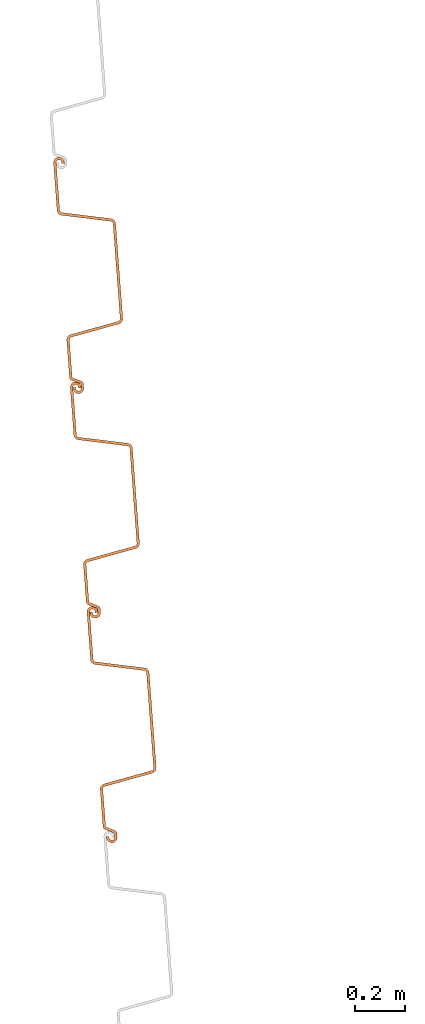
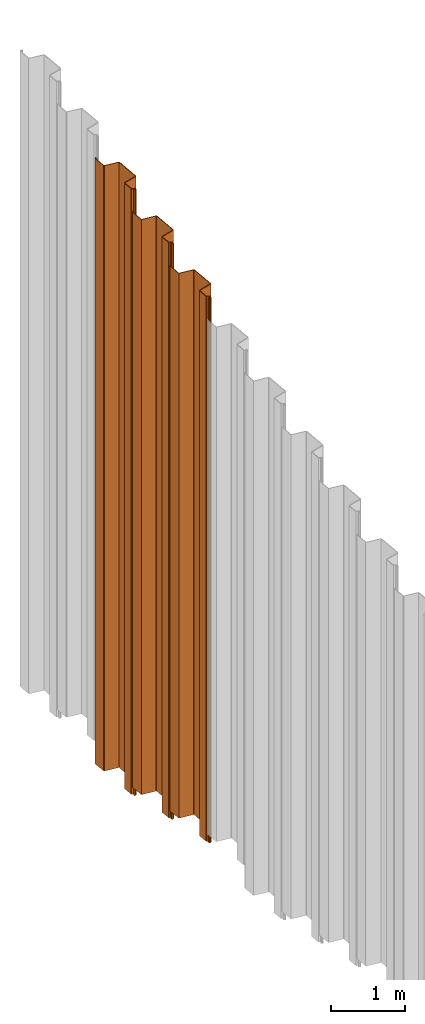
# One storey, part 5 of 12: 3 proxies.
"""IFC2X3 building model written with IfcOpenShell, lengths in millimetres."""

from ifc_helpers import new_model, entity, si_unit, converted_unit, derived_unit, direction, frame, frame_2d, origin, place, context, subcontext, project, spatial, polyline, circle_curve, parameter, trimmed, segment, composite_curve, outline, extrude, source, transform, mapped, material, type_object, type_shapes, element, save


model = new_model("IFC2X3")

# Units and contexts
model_context = context("Model", 3, precision=0.01, world=origin(), true_north=direction((6.12303176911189e-17, 1.0)))
body_context = subcontext(model_context, "Body", "Model", "MODEL_VIEW")
ifc_project = project(units=[si_unit("LENGTHUNIT", "METRE", prefix="MILLI"), si_unit("AREAUNIT", "SQUARE_METRE"), si_unit("VOLUMEUNIT", "CUBIC_METRE"), converted_unit("PLANEANGLEUNIT", "DEGREE", entity("IfcRatioMeasure", 0.0174532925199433), si_unit("PLANEANGLEUNIT", "RADIAN"), dimensions=[0, 0, 0, 0, 0, 0, 0]), si_unit("MASSUNIT", "GRAM", prefix="KILO"), derived_unit("MASSDENSITYUNIT", [(si_unit("MASSUNIT", "GRAM", prefix="KILO"), 1), (si_unit("LENGTHUNIT", "METRE"), -3)]), derived_unit("MOMENTOFINERTIAUNIT", [(si_unit("LENGTHUNIT", "METRE"), 4)]), si_unit("TIMEUNIT", "SECOND"), si_unit("FREQUENCYUNIT", "HERTZ"), si_unit("THERMODYNAMICTEMPERATUREUNIT", "DEGREE_CELSIUS"), derived_unit("THERMALTRANSMITTANCEUNIT", [(si_unit("MASSUNIT", "GRAM", prefix="KILO"), 1), (si_unit("THERMODYNAMICTEMPERATUREUNIT", "KELVIN"), -1), (si_unit("TIMEUNIT", "SECOND"), -3)]), derived_unit("VOLUMETRICFLOWRATEUNIT", [(si_unit("LENGTHUNIT", "METRE"), 3), (si_unit("TIMEUNIT", "SECOND"), -1)]), si_unit("ELECTRICCURRENTUNIT", "AMPERE"), si_unit("ELECTRICVOLTAGEUNIT", "VOLT"), si_unit("POWERUNIT", "WATT"), si_unit("FORCEUNIT", "NEWTON", prefix="KILO"), si_unit("ILLUMINANCEUNIT", "LUX"), si_unit("LUMINOUSFLUXUNIT", "LUMEN"), si_unit("LUMINOUSINTENSITYUNIT", "CANDELA"), derived_unit("USERDEFINED", [(si_unit("MASSUNIT", "GRAM", prefix="KILO"), -1), (si_unit("LENGTHUNIT", "METRE"), -2), (si_unit("TIMEUNIT", "SECOND"), 3), (si_unit("LUMINOUSFLUXUNIT", "LUMEN"), 1)]), derived_unit("LINEARVELOCITYUNIT", [(si_unit("LENGTHUNIT", "METRE"), 1), (si_unit("TIMEUNIT", "SECOND"), -1)]), si_unit("PRESSUREUNIT", "PASCAL"), derived_unit("USERDEFINED", [(si_unit("LENGTHUNIT", "METRE"), -2), (si_unit("MASSUNIT", "GRAM", prefix="KILO"), 1), (si_unit("TIMEUNIT", "SECOND"), -2)]), derived_unit("LINEARFORCEUNIT", [(si_unit("MASSUNIT", "GRAM", prefix="KILO"), 1), (si_unit("LENGTHUNIT", "METRE"), 1), (si_unit("TIMEUNIT", "SECOND"), -2), (si_unit("LENGTHUNIT", "METRE"), -1)]), derived_unit("PLANARFORCEUNIT", [(si_unit("MASSUNIT", "GRAM", prefix="KILO"), 1), (si_unit("LENGTHUNIT", "METRE"), 1), (si_unit("TIMEUNIT", "SECOND"), -2), (si_unit("LENGTHUNIT", "METRE"), -2)])], contexts=[model_context])

# Site, building, storey
site_placement = place(None, origin())
site = spatial("IfcSite", under=ifc_project, at=site_placement, Name="Default", CompositionType="ELEMENT")
building_placement = place(site_placement, origin())
building = spatial("IfcBuilding", under=site, at=building_placement, CompositionType="ELEMENT")
storey_placement = place(building_placement, frame((0.0, 0.0, 10600.0)))
storey = spatial("IfcBuildingStorey", under=building, at=storey_placement, Name="AP+10.600", CompositionType="ELEMENT", Elevation=10600.0)

# Proxies
ifc_material = material(Name="<Unnamed>")
building_element_proxy_type_1 = type_object("IfcBuildingElementProxyType", Name="鋼矢板10H型:鋼矢板10H型", PredefinedType="NOTDEFINED", material=ifc_material)
shared_shape_1 = source(origin(), body_context, "Body", "SweptSolid", [
    extrude(outline(composite_curve([segment(trimmed(circle_curve(frame_2d((85.3662976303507, 306.644432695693), x_axis=(0.422618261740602, 0.906307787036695)), 13.885714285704), [parameter(24.9999999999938)], [parameter(90.0000000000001)], True, "PARAMETER"), True, "CONTINUOUS"), segment(polyline([(72.7815666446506, 312.512789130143), (9.8129512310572, 177.476157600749)]), True, "CONTINUOUS"), segment(trimmed(circle_curve(frame_2d((29.3891994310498, 168.347603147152), x_axis=(0.422618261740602, 0.906307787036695)), 21.6), [parameter(90.0000000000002)], [parameter(168.69006752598)], True, "PARAMETER"), True, "CONTINUOUS"), segment(polyline([(16.598697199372, 150.941769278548), (175.329723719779, 34.2998683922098)]), True, "CONTINUOUS"), segment(trimmed(circle_curve(frame_2d((168.93447260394, 25.596951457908), x_axis=(0.422618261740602, 0.906307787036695)), 10.7999999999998), [parameter(270.0)], [parameter(348.690067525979)], True, "PARAMETER"), False, "CONTINUOUS"), segment(polyline([(178.722596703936, 21.0326742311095), (18.2974003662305, -323.000269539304)]), True, "CONTINUOUS"), segment(trimmed(circle_curve(frame_2d((8.50927626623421, -318.435992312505), x_axis=(0.422618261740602, 0.906307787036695)), 10.8), [parameter(191.30993247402)], [parameter(269.999999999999)], True, "PARAMETER"), False, "CONTINUOUS"), segment(polyline([(5.95324328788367, -328.929166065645), (-185.429973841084, -282.310113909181)]), True, "CONTINUOUS"), segment(trimmed(circle_curve(frame_2d((-190.542039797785, -303.296461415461), x_axis=(0.422618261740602, 0.906307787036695)), 21.6000000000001), [parameter(11.3099324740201)], [parameter(90.0000000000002)], True, "PARAMETER"), True, "CONTINUOUS"), segment(polyline([(-210.118287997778, -294.167906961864), (-290.330886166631, -466.184378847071)]), True, "CONTINUOUS"), segment(trimmed(circle_curve(frame_2d((-270.754637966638, -475.312933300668), x_axis=(0.422618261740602, 0.906307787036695)), 21.6), [parameter(90.0000000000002)], [parameter(269.999999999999)], True, "PARAMETER"), True, "CONTINUOUS"), segment(polyline([(-251.178389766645, -484.441487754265), (-249.065298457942, -479.909948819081)]), True, "CONTINUOUS"), segment(polyline([(-249.065298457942, -479.909948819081), (-258.853422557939, -475.345671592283)]), True, "CONTINUOUS"), segment(polyline([(-258.853422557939, -475.345671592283), (-260.966513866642, -479.877210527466)]), True, "CONTINUOUS"), segment(trimmed(circle_curve(frame_2d((-270.754637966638, -475.312933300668), x_axis=(0.422618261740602, 0.906307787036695)), 10.8), [parameter(90.0000000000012)], [parameter(270.0)], True, "PARAMETER"), False, "CONTINUOUS"), segment(polyline([(-280.542762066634, -470.748656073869), (-200.330163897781, -298.732184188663)]), True, "CONTINUOUS"), segment(trimmed(circle_curve(frame_2d((-190.542039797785, -303.296461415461), x_axis=(0.422618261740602, 0.906307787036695)), 10.8), [parameter(11.3099324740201)], [parameter(89.9999999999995)], True, "PARAMETER"), False, "CONTINUOUS"), segment(polyline([(-187.986006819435, -292.803287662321), (3.39721030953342, -339.422339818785)]), True, "CONTINUOUS"), segment(trimmed(circle_curve(frame_2d((8.50927626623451, -318.435992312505), x_axis=(0.422618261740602, 0.906307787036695)), 21.6), [parameter(191.30993247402)], [parameter(270.0)], True, "PARAMETER"), True, "CONTINUOUS"), segment(polyline([(28.0855244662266, -327.564546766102), (188.510720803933, 16.4683970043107)]), True, "CONTINUOUS"), segment(trimmed(circle_curve(frame_2d((168.93447260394, 25.5969514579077), x_axis=(0.422618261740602, 0.906307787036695)), 21.6), [parameter(270.0)], [parameter(348.69006752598)], True, "PARAMETER"), True, "CONTINUOUS"), segment(polyline([(181.724974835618, 43.0027853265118), (22.9939483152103, 159.644686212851)]), True, "CONTINUOUS"), segment(trimmed(circle_curve(frame_2d((29.3891994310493, 168.347603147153), x_axis=(0.422618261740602, 0.906307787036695)), 10.7999999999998), [parameter(89.9999999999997)], [parameter(168.690067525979)], True, "PARAMETER"), False, "CONTINUOUS"), segment(polyline([(19.6010753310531, 172.911880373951), (82.5696907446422, 307.948511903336)]), True, "CONTINUOUS"), segment(trimmed(circle_curve(frame_2d((85.3662976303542, 306.64443269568), x_axis=(0.422618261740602, 0.906307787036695)), 3.08571428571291), [parameter(25.0000000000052)], [parameter(90.0000000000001)], True, "PARAMETER"), False, "CONTINUOUS"), segment(polyline([(85.3662976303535, 309.730146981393), (122.220231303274, 309.730146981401)]), True, "CONTINUOUS"), segment(trimmed(circle_curve(frame_2d((122.220231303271, 323.615861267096), x_axis=(0.422618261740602, 0.906307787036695)), 13.8857142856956), [parameter(205.000000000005)], [parameter(270.0)], True, "PARAMETER"), True, "CONTINUOUS"), segment(polyline([(134.804962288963, 317.747504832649), (141.079261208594, 331.202782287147)]), True, "CONTINUOUS"), segment(trimmed(circle_curve(frame_2d((121.503013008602, 340.331336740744), x_axis=(0.422618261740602, 0.906307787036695)), 21.6), [parameter(270.0)], [parameter(90.0000000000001)], True, "PARAMETER"), True, "CONTINUOUS"), segment(polyline([(101.926764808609, 349.459891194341), (99.8136734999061, 344.928352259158)]), True, "CONTINUOUS"), segment(polyline([(99.8136734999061, 344.928352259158), (109.601797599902, 340.364075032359)]), True, "CONTINUOUS"), segment(polyline([(109.601797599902, 340.364075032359), (111.714888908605, 344.895613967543)]), True, "CONTINUOUS"), segment(trimmed(circle_curve(frame_2d((121.503013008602, 340.331336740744), x_axis=(0.422618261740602, 0.906307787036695)), 10.8), [parameter(270.0)], [parameter(89.9999999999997)], True, "PARAMETER"), False, "CONTINUOUS"), segment(polyline([(131.291137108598, 335.767059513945), (125.01683818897, 322.311782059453)]), True, "CONTINUOUS"), segment(trimmed(circle_curve(frame_2d((122.220231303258, 323.615861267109), x_axis=(0.422618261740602, 0.906307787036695)), 3.08571428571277), [parameter(204.999999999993)], [parameter(270.0)], True, "PARAMETER"), False, "CONTINUOUS"), segment(polyline([(122.220231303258, 320.530146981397), (85.3662976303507, 320.530146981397)]), True, "CONTINUOUS")], self_intersect=False)), frame((95.205667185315, -48.8888888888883, -9000.0), z_axis=(0.0, 0.0, -1.0), x_axis=(0.4226182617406, 0.906307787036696, 0.0)), (0.0, 0.0, -1.0), 9000.0),
])
type_shapes(building_element_proxy_type_1, [shared_shape_1])
proxy_1_placement = place(storey_placement, frame((-89393.4927574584, -6731.45677019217, 4062.05268431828), z_axis=(0.0, 0.0, 1.0), x_axis=(0.0743258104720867, -0.997234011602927, 0.0)))
element("IfcBuildingElementProxy", 1, at=proxy_1_placement, inside=storey, type_object=building_element_proxy_type_1, material=ifc_material, Name="鋼矢板10H型:鋼矢板10H型", ObjectType="鋼矢板10H型:鋼矢板10H型", context=body_context, shape_type="MappedRepresentation", body=[
    mapped(shared_shape_1, transform((0.0, 0.0, 0.0), scale=1.0)),
])
building_element_proxy_type_2 = type_object("IfcBuildingElementProxyType", Name="鋼矢板10H型:鋼矢板10H型", PredefinedType="NOTDEFINED", material=ifc_material)
shared_shape_2 = source(origin(), body_context, "Body", "SweptSolid", [
    extrude(outline(composite_curve([segment(trimmed(circle_curve(frame_2d((85.3662976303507, 306.644432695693), x_axis=(0.422618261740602, 0.906307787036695)), 13.885714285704), [parameter(24.9999999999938)], [parameter(90.0000000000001)], True, "PARAMETER"), True, "CONTINUOUS"), segment(polyline([(72.7815666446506, 312.512789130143), (9.8129512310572, 177.476157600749)]), True, "CONTINUOUS"), segment(trimmed(circle_curve(frame_2d((29.3891994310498, 168.347603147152), x_axis=(0.422618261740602, 0.906307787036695)), 21.6), [parameter(90.0000000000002)], [parameter(168.69006752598)], True, "PARAMETER"), True, "CONTINUOUS"), segment(polyline([(16.598697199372, 150.941769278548), (175.329723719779, 34.2998683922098)]), True, "CONTINUOUS"), segment(trimmed(circle_curve(frame_2d((168.93447260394, 25.596951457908), x_axis=(0.422618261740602, 0.906307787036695)), 10.7999999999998), [parameter(270.0)], [parameter(348.690067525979)], True, "PARAMETER"), False, "CONTINUOUS"), segment(polyline([(178.722596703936, 21.0326742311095), (18.2974003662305, -323.000269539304)]), True, "CONTINUOUS"), segment(trimmed(circle_curve(frame_2d((8.50927626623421, -318.435992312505), x_axis=(0.422618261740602, 0.906307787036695)), 10.8), [parameter(191.30993247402)], [parameter(269.999999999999)], True, "PARAMETER"), False, "CONTINUOUS"), segment(polyline([(5.95324328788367, -328.929166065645), (-185.429973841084, -282.310113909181)]), True, "CONTINUOUS"), segment(trimmed(circle_curve(frame_2d((-190.542039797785, -303.296461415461), x_axis=(0.422618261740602, 0.906307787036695)), 21.6000000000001), [parameter(11.3099324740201)], [parameter(90.0000000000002)], True, "PARAMETER"), True, "CONTINUOUS"), segment(polyline([(-210.118287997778, -294.167906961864), (-290.330886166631, -466.184378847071)]), True, "CONTINUOUS"), segment(trimmed(circle_curve(frame_2d((-270.754637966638, -475.312933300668), x_axis=(0.422618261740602, 0.906307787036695)), 21.6), [parameter(90.0000000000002)], [parameter(269.999999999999)], True, "PARAMETER"), True, "CONTINUOUS"), segment(polyline([(-251.178389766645, -484.441487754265), (-249.065298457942, -479.909948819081)]), True, "CONTINUOUS"), segment(polyline([(-249.065298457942, -479.909948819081), (-258.853422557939, -475.345671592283)]), True, "CONTINUOUS"), segment(polyline([(-258.853422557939, -475.345671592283), (-260.966513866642, -479.877210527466)]), True, "CONTINUOUS"), segment(trimmed(circle_curve(frame_2d((-270.754637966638, -475.312933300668), x_axis=(0.422618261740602, 0.906307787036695)), 10.8), [parameter(90.0000000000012)], [parameter(270.0)], True, "PARAMETER"), False, "CONTINUOUS"), segment(polyline([(-280.542762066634, -470.748656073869), (-200.330163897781, -298.732184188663)]), True, "CONTINUOUS"), segment(trimmed(circle_curve(frame_2d((-190.542039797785, -303.296461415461), x_axis=(0.422618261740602, 0.906307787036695)), 10.8), [parameter(11.3099324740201)], [parameter(89.9999999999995)], True, "PARAMETER"), False, "CONTINUOUS"), segment(polyline([(-187.986006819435, -292.803287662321), (3.39721030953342, -339.422339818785)]), True, "CONTINUOUS"), segment(trimmed(circle_curve(frame_2d((8.50927626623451, -318.435992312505), x_axis=(0.422618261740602, 0.906307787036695)), 21.6), [parameter(191.30993247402)], [parameter(270.0)], True, "PARAMETER"), True, "CONTINUOUS"), segment(polyline([(28.0855244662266, -327.564546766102), (188.510720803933, 16.4683970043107)]), True, "CONTINUOUS"), segment(trimmed(circle_curve(frame_2d((168.93447260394, 25.5969514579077), x_axis=(0.422618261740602, 0.906307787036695)), 21.6), [parameter(270.0)], [parameter(348.69006752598)], True, "PARAMETER"), True, "CONTINUOUS"), segment(polyline([(181.724974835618, 43.0027853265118), (22.9939483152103, 159.644686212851)]), True, "CONTINUOUS"), segment(trimmed(circle_curve(frame_2d((29.3891994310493, 168.347603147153), x_axis=(0.422618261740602, 0.906307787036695)), 10.7999999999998), [parameter(89.9999999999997)], [parameter(168.690067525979)], True, "PARAMETER"), False, "CONTINUOUS"), segment(polyline([(19.6010753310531, 172.911880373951), (82.5696907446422, 307.948511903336)]), True, "CONTINUOUS"), segment(trimmed(circle_curve(frame_2d((85.3662976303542, 306.64443269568), x_axis=(0.422618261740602, 0.906307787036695)), 3.08571428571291), [parameter(25.0000000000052)], [parameter(90.0000000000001)], True, "PARAMETER"), False, "CONTINUOUS"), segment(polyline([(85.3662976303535, 309.730146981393), (122.220231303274, 309.730146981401)]), True, "CONTINUOUS"), segment(trimmed(circle_curve(frame_2d((122.220231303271, 323.615861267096), x_axis=(0.422618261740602, 0.906307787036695)), 13.8857142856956), [parameter(205.000000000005)], [parameter(270.0)], True, "PARAMETER"), True, "CONTINUOUS"), segment(polyline([(134.804962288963, 317.747504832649), (141.079261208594, 331.202782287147)]), True, "CONTINUOUS"), segment(trimmed(circle_curve(frame_2d((121.503013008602, 340.331336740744), x_axis=(0.422618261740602, 0.906307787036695)), 21.6), [parameter(270.0)], [parameter(90.0000000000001)], True, "PARAMETER"), True, "CONTINUOUS"), segment(polyline([(101.926764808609, 349.459891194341), (99.8136734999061, 344.928352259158)]), True, "CONTINUOUS"), segment(polyline([(99.8136734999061, 344.928352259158), (109.601797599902, 340.364075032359)]), True, "CONTINUOUS"), segment(polyline([(109.601797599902, 340.364075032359), (111.714888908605, 344.895613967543)]), True, "CONTINUOUS"), segment(trimmed(circle_curve(frame_2d((121.503013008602, 340.331336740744), x_axis=(0.422618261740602, 0.906307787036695)), 10.8), [parameter(270.0)], [parameter(89.9999999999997)], True, "PARAMETER"), False, "CONTINUOUS"), segment(polyline([(131.291137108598, 335.767059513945), (125.01683818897, 322.311782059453)]), True, "CONTINUOUS"), segment(trimmed(circle_curve(frame_2d((122.220231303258, 323.615861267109), x_axis=(0.422618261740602, 0.906307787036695)), 3.08571428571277), [parameter(204.999999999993)], [parameter(270.0)], True, "PARAMETER"), False, "CONTINUOUS"), segment(polyline([(122.220231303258, 320.530146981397), (85.3662976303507, 320.530146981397)]), True, "CONTINUOUS")], self_intersect=False)), frame((95.205667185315, -48.8888888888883, -9500.0), z_axis=(0.0, 0.0, -1.0), x_axis=(0.4226182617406, 0.906307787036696, 0.0)), (0.0, 0.0, -1.0), 9500.0),
])
type_shapes(building_element_proxy_type_2, [shared_shape_2])
proxy_2_placement = place(storey_placement, frame((-89460.3859868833, -5833.94615974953, 4429.95268431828), z_axis=(0.0, 0.0, 1.0), x_axis=(0.0743258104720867, -0.997234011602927, 0.0)))
element("IfcBuildingElementProxy", 2, at=proxy_2_placement, inside=storey, type_object=building_element_proxy_type_2, material=ifc_material, Name="鋼矢板10H型:鋼矢板10H型", ObjectType="鋼矢板10H型:鋼矢板10H型", context=body_context, shape_type="MappedRepresentation", body=[
    mapped(shared_shape_2, transform((0.0, 0.0, 0.0), scale=1.0)),
])
building_element_proxy_type_3 = type_object("IfcBuildingElementProxyType", Name="鋼矢板10H型:鋼矢板10H型", PredefinedType="NOTDEFINED", material=ifc_material)
shared_shape_3 = source(origin(), body_context, "Body", "SweptSolid", [
    extrude(outline(composite_curve([segment(trimmed(circle_curve(frame_2d((85.3662976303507, 306.644432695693), x_axis=(0.422618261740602, 0.906307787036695)), 13.885714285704), [parameter(24.9999999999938)], [parameter(90.0000000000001)], True, "PARAMETER"), True, "CONTINUOUS"), segment(polyline([(72.7815666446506, 312.512789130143), (9.8129512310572, 177.476157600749)]), True, "CONTINUOUS"), segment(trimmed(circle_curve(frame_2d((29.3891994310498, 168.347603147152), x_axis=(0.422618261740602, 0.906307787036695)), 21.6), [parameter(90.0000000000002)], [parameter(168.69006752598)], True, "PARAMETER"), True, "CONTINUOUS"), segment(polyline([(16.598697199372, 150.941769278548), (175.329723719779, 34.2998683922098)]), True, "CONTINUOUS"), segment(trimmed(circle_curve(frame_2d((168.93447260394, 25.596951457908), x_axis=(0.422618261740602, 0.906307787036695)), 10.7999999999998), [parameter(270.0)], [parameter(348.690067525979)], True, "PARAMETER"), False, "CONTINUOUS"), segment(polyline([(178.722596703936, 21.0326742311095), (18.2974003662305, -323.000269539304)]), True, "CONTINUOUS"), segment(trimmed(circle_curve(frame_2d((8.50927626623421, -318.435992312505), x_axis=(0.422618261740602, 0.906307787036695)), 10.8), [parameter(191.30993247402)], [parameter(269.999999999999)], True, "PARAMETER"), False, "CONTINUOUS"), segment(polyline([(5.95324328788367, -328.929166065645), (-185.429973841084, -282.310113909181)]), True, "CONTINUOUS"), segment(trimmed(circle_curve(frame_2d((-190.542039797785, -303.296461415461), x_axis=(0.422618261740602, 0.906307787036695)), 21.6000000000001), [parameter(11.3099324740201)], [parameter(90.0000000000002)], True, "PARAMETER"), True, "CONTINUOUS"), segment(polyline([(-210.118287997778, -294.167906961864), (-290.330886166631, -466.184378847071)]), True, "CONTINUOUS"), segment(trimmed(circle_curve(frame_2d((-270.754637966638, -475.312933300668), x_axis=(0.422618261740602, 0.906307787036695)), 21.6), [parameter(90.0000000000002)], [parameter(269.999999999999)], True, "PARAMETER"), True, "CONTINUOUS"), segment(polyline([(-251.178389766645, -484.441487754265), (-249.065298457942, -479.909948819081)]), True, "CONTINUOUS"), segment(polyline([(-249.065298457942, -479.909948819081), (-258.853422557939, -475.345671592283)]), True, "CONTINUOUS"), segment(polyline([(-258.853422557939, -475.345671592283), (-260.966513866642, -479.877210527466)]), True, "CONTINUOUS"), segment(trimmed(circle_curve(frame_2d((-270.754637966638, -475.312933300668), x_axis=(0.422618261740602, 0.906307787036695)), 10.8), [parameter(90.0000000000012)], [parameter(270.0)], True, "PARAMETER"), False, "CONTINUOUS"), segment(polyline([(-280.542762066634, -470.748656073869), (-200.330163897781, -298.732184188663)]), True, "CONTINUOUS"), segment(trimmed(circle_curve(frame_2d((-190.542039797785, -303.296461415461), x_axis=(0.422618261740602, 0.906307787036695)), 10.8), [parameter(11.3099324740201)], [parameter(89.9999999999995)], True, "PARAMETER"), False, "CONTINUOUS"), segment(polyline([(-187.986006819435, -292.803287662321), (3.39721030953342, -339.422339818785)]), True, "CONTINUOUS"), segment(trimmed(circle_curve(frame_2d((8.50927626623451, -318.435992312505), x_axis=(0.422618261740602, 0.906307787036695)), 21.6), [parameter(191.30993247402)], [parameter(270.0)], True, "PARAMETER"), True, "CONTINUOUS"), segment(polyline([(28.0855244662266, -327.564546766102), (188.510720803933, 16.4683970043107)]), True, "CONTINUOUS"), segment(trimmed(circle_curve(frame_2d((168.93447260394, 25.5969514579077), x_axis=(0.422618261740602, 0.906307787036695)), 21.6), [parameter(270.0)], [parameter(348.69006752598)], True, "PARAMETER"), True, "CONTINUOUS"), segment(polyline([(181.724974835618, 43.0027853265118), (22.9939483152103, 159.644686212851)]), True, "CONTINUOUS"), segment(trimmed(circle_curve(frame_2d((29.3891994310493, 168.347603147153), x_axis=(0.422618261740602, 0.906307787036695)), 10.7999999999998), [parameter(89.9999999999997)], [parameter(168.690067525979)], True, "PARAMETER"), False, "CONTINUOUS"), segment(polyline([(19.6010753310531, 172.911880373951), (82.5696907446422, 307.948511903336)]), True, "CONTINUOUS"), segment(trimmed(circle_curve(frame_2d((85.3662976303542, 306.64443269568), x_axis=(0.422618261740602, 0.906307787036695)), 3.08571428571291), [parameter(25.0000000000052)], [parameter(90.0000000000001)], True, "PARAMETER"), False, "CONTINUOUS"), segment(polyline([(85.3662976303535, 309.730146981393), (122.220231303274, 309.730146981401)]), True, "CONTINUOUS"), segment(trimmed(circle_curve(frame_2d((122.220231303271, 323.615861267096), x_axis=(0.422618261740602, 0.906307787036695)), 13.8857142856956), [parameter(205.000000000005)], [parameter(270.0)], True, "PARAMETER"), True, "CONTINUOUS"), segment(polyline([(134.804962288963, 317.747504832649), (141.079261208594, 331.202782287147)]), True, "CONTINUOUS"), segment(trimmed(circle_curve(frame_2d((121.503013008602, 340.331336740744), x_axis=(0.422618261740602, 0.906307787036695)), 21.6), [parameter(270.0)], [parameter(90.0000000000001)], True, "PARAMETER"), True, "CONTINUOUS"), segment(polyline([(101.926764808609, 349.459891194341), (99.8136734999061, 344.928352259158)]), True, "CONTINUOUS"), segment(polyline([(99.8136734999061, 344.928352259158), (109.601797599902, 340.364075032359)]), True, "CONTINUOUS"), segment(polyline([(109.601797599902, 340.364075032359), (111.714888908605, 344.895613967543)]), True, "CONTINUOUS"), segment(trimmed(circle_curve(frame_2d((121.503013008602, 340.331336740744), x_axis=(0.422618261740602, 0.906307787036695)), 10.8), [parameter(270.0)], [parameter(89.9999999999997)], True, "PARAMETER"), False, "CONTINUOUS"), segment(polyline([(131.291137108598, 335.767059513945), (125.01683818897, 322.311782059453)]), True, "CONTINUOUS"), segment(trimmed(circle_curve(frame_2d((122.220231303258, 323.615861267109), x_axis=(0.422618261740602, 0.906307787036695)), 3.08571428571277), [parameter(204.999999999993)], [parameter(270.0)], True, "PARAMETER"), False, "CONTINUOUS"), segment(polyline([(122.220231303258, 320.530146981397), (85.3662976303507, 320.530146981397)]), True, "CONTINUOUS")], self_intersect=False)), frame((95.205667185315, -48.8888888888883, -10000.0), z_axis=(0.0, 0.0, -1.0), x_axis=(0.4226182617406, 0.906307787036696, 0.0)), (0.0, 0.0, -1.0), 10000.0),
])
type_shapes(building_element_proxy_type_3, [shared_shape_3])
proxy_3_placement = place(storey_placement, frame((-89527.2792163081, -4936.43554930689, 4797.85268431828), z_axis=(0.0, 0.0, 1.0), x_axis=(0.0743258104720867, -0.997234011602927, 0.0)))
element("IfcBuildingElementProxy", 3, at=proxy_3_placement, inside=storey, type_object=building_element_proxy_type_3, material=ifc_material, Name="鋼矢板10H型:鋼矢板10H型", ObjectType="鋼矢板10H型:鋼矢板10H型", context=body_context, shape_type="MappedRepresentation", body=[
    mapped(shared_shape_3, transform((0.0, 0.0, 0.0), scale=1.0)),
])

save(model, "model.ifc")
